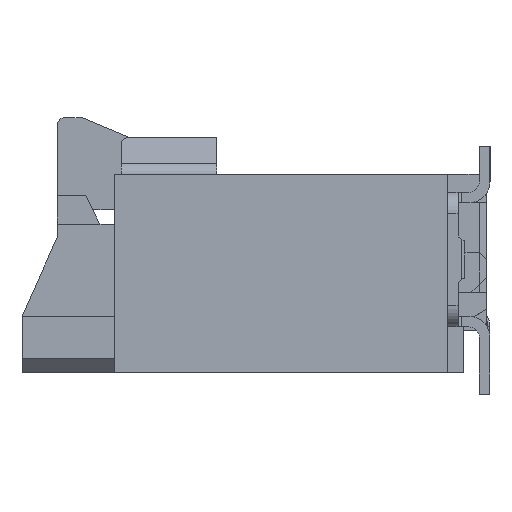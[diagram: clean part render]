
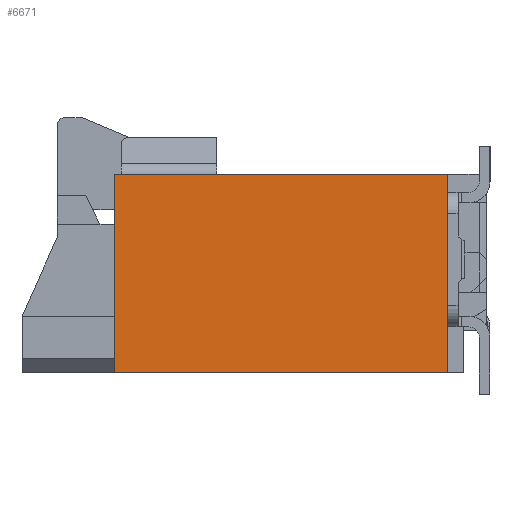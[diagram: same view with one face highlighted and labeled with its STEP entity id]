
A CAD part, left-side view. The second image highlights one B-rep face of the part: STEP entity #6671.
In plain terms, the highlighted planar face has unit normal (-1, 0, 0).
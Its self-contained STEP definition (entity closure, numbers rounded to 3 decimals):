
#520 = AXIS2_PLACEMENT_3D ( 'NONE', #26103, #31606, #9095 ) ;
#3935 = EDGE_LOOP ( 'NONE', ( #30576, #9515, #21435, #12815 ) ) ;
#3983 = CARTESIAN_POINT ( 'NONE',  ( -14., 5.3, 3.1 ) ) ;
#4362 = DIRECTION ( 'NONE',  ( 0., 0., -1. ) ) ;
#4501 = LINE ( 'NONE', #27071, #10687 ) ;
#4593 = CARTESIAN_POINT ( 'NONE',  ( -14., 0.6, 0.3 ) ) ;
#4806 = LINE ( 'NONE', #3983, #19864 ) ;
#5076 = CARTESIAN_POINT ( 'NONE',  ( -14., 5.3, 0.3 ) ) ;
#5857 = VECTOR ( 'NONE', #17244, 1000. ) ;
#6671 = ADVANCED_FACE ( 'NONE', ( #17782 ), #23347, .T. ) ;
#7014 = EDGE_CURVE ( 'NONE', #25839, #24977, #35574, .T. ) ;
#7347 = EDGE_CURVE ( 'NONE', #8432, #25839, #15996, .T. ) ;
#8432 = VERTEX_POINT ( 'NONE', #36248 ) ;
#9095 = DIRECTION ( 'NONE',  ( 0., 0., 1. ) ) ;
#9515 = ORIENTED_EDGE ( 'NONE', *, *, #17116, .T. ) ;
#10687 = VECTOR ( 'NONE', #24298, 1000. ) ;
#12815 = ORIENTED_EDGE ( 'NONE', *, *, #7347, .T. ) ;
#15996 = LINE ( 'NONE', #4593, #21767 ) ;
#16259 = CARTESIAN_POINT ( 'NONE',  ( -14., 0.6, 3.1 ) ) ;
#17116 = EDGE_CURVE ( 'NONE', #24977, #18179, #4806, .T. ) ;
#17244 = DIRECTION ( 'NONE',  ( 0., 1., 0. ) ) ;
#17782 = FACE_OUTER_BOUND ( 'NONE', #3935, .T. ) ;
#18179 = VERTEX_POINT ( 'NONE', #5076 ) ;
#19864 = VECTOR ( 'NONE', #4362, 1000. ) ;
#21435 = ORIENTED_EDGE ( 'NONE', *, *, #33944, .T. ) ;
#21767 = VECTOR ( 'NONE', #24392, 1000. ) ;
#23347 = PLANE ( 'NONE',  #520 ) ;
#24298 = DIRECTION ( 'NONE',  ( 0., -1., 0. ) ) ;
#24392 = DIRECTION ( 'NONE',  ( 0., 0., 1. ) ) ;
#24977 = VERTEX_POINT ( 'NONE', #32595 ) ;
#25839 = VERTEX_POINT ( 'NONE', #16259 ) ;
#26103 = CARTESIAN_POINT ( 'NONE',  ( -14., 0., 0. ) ) ;
#27071 = CARTESIAN_POINT ( 'NONE',  ( -14., 5.3, 0.3 ) ) ;
#30576 = ORIENTED_EDGE ( 'NONE', *, *, #7014, .T. ) ;
#31438 = CARTESIAN_POINT ( 'NONE',  ( -14., 0.6, 3.1 ) ) ;
#31606 = DIRECTION ( 'NONE',  ( -1., 0., 0. ) ) ;
#32595 = CARTESIAN_POINT ( 'NONE',  ( -14., 5.3, 3.1 ) ) ;
#33944 = EDGE_CURVE ( 'NONE', #18179, #8432, #4501, .T. ) ;
#35574 = LINE ( 'NONE', #31438, #5857 ) ;
#36248 = CARTESIAN_POINT ( 'NONE',  ( -14., 0.6, 0.3 ) ) ;
